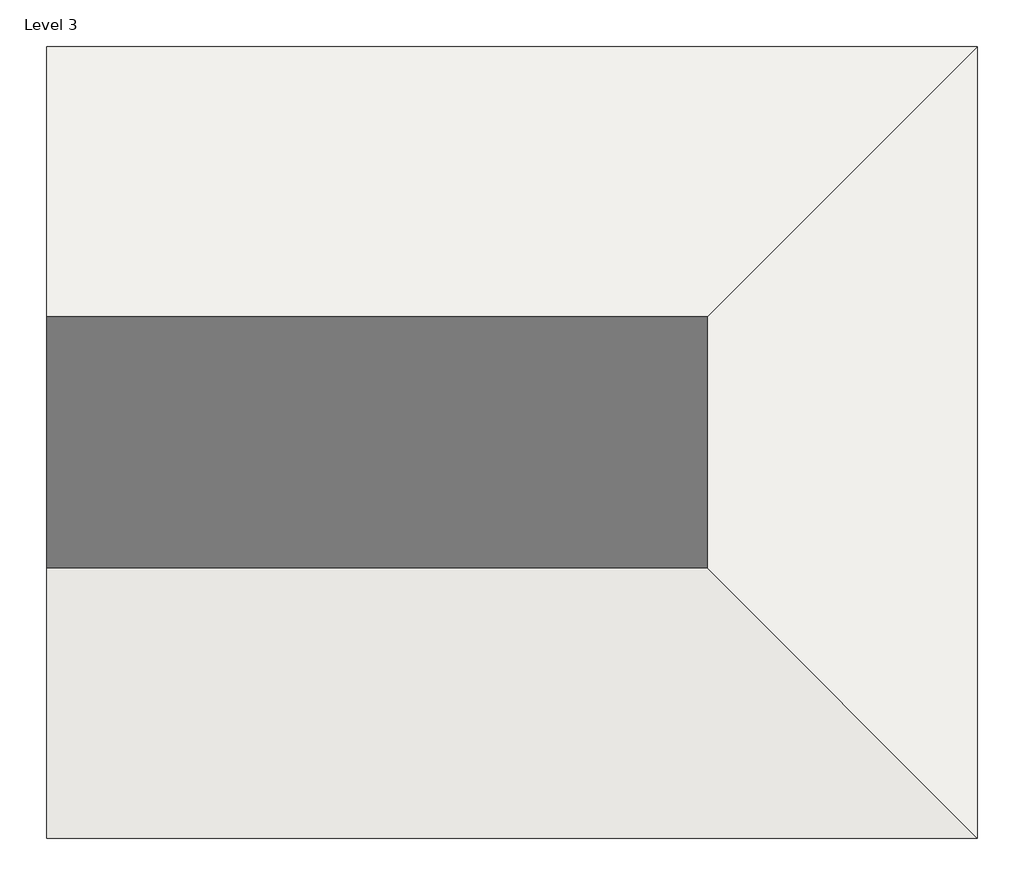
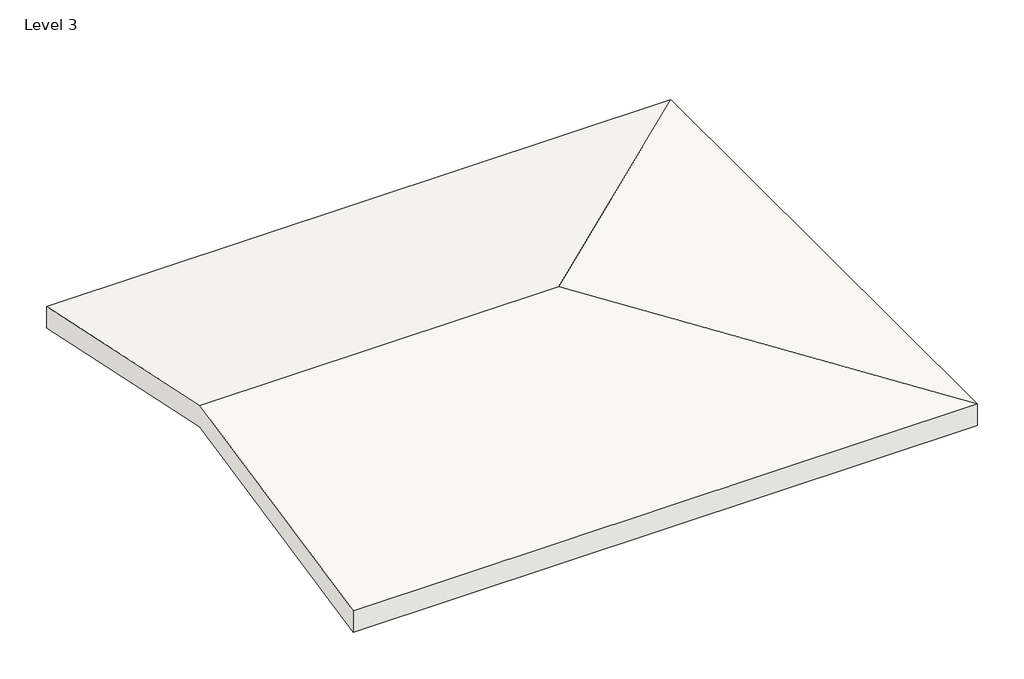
# One storey: 1 roof.
"""IFC4 building model written with IfcOpenShell, lengths in millimetres."""

from ifc_helpers import new_model, si_unit, origin, place, context, project, spatial, faceted_brep, element, save

model = new_model("IFC4")

# Units and contexts
model_context = context("Model", 3, world=origin())
ifc_project = project(units=[si_unit("LENGTHUNIT", "METRE", prefix="MILLI")], contexts=[model_context])

# Site, building, storey
site = spatial("IfcSite", under=ifc_project)
building = spatial("IfcBuilding", under=site)
storey = spatial("IfcBuildingStorey", under=building, Name="Level 3", Elevation=8000.0)

# Roof
placement = place(None, origin())
element("IfcRoof", 1, ObjectType="Steel Truss - Insulation on Sheathing with Metal Roof", at=placement, inside=storey, context=model_context, shape_type="Brep", body=[
    faceted_brep([(-6338.7166223, -408.6390937, 9099.9802066), (-6338.7166223, 5266.3609063, 7893.7217192), (7011.2833777, 5266.3609063, 7893.7217192), (1336.2833777, -408.6390937, 9099.9802066), (7011.2833777, -6083.6390937, 7893.7217192), (-6338.7166223, -6083.6390937, 7893.7217192), (-6338.7166223, 5266.3609063, 8378.3111611), (-6338.7166223, -408.6390937, 9584.5696486), (1336.2833777, -408.6390937, 9584.5696486), (7011.2833777, 5266.3609063, 8378.3111611), (7011.2833777, -6083.6390937, 8378.3111611), (-6338.7166223, -6083.6390937, 8378.3111611)], [[[0, 1, 2, 3]], [[4, 3, 2]], [[5, 0, 3, 4]], [[6, 7, 8, 9]], [[10, 9, 8]], [[11, 10, 8, 7]], [[4, 10, 11, 5]], [[2, 9, 10, 4]], [[1, 6, 9, 2]], [[11, 7, 6, 1, 0, 5]]]),
])

save(model, "model.ifc")
